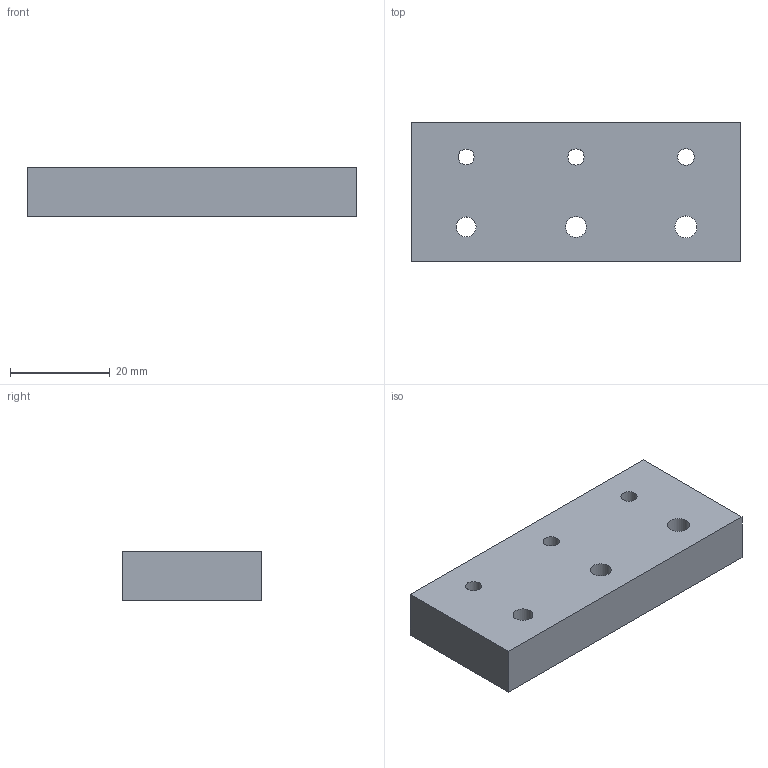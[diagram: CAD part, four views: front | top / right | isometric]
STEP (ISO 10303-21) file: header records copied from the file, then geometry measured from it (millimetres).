
FILE_DESCRIPTION(('Open CASCADE Model'),'2;1');
FILE_NAME('Open CASCADE Shape Model','2026-11-08T07:33:08',('Author'),( 'Open CASCADE'),'Open CASCADE STEP processor 7.8','Open CASCADE 7.8' ,'Unknown');
FILE_SCHEMA(('AUTOMOTIVE_DESIGN { 1 0 10303 214 1 1 1 1 }'));
Length unit declared in the file: millimetre
Products named in the file (1): Open CASCADE STEP translator 7.8 19
Bounding box: 66 x 28 x 10 mm (x, y, z)
Volume: 17815.2 mm3; surface area: 6144.9 mm2
Topology: 1 solids, 1 shells, 12 faces, 30 edges, 20 vertices
Faces by surface type: plane 6, cylinder 6
Full cylindrical faces by diameter (mm): 3.2 x1, 3.242 x1, 3.3 x1, 4 x1, 4.2 x1, 4.4 x1
Entity records: 790 total; most frequent: DIRECTION 128, CARTESIAN_POINT 123, LINE 66, VECTOR 66, ORIENTED_EDGE 60, PCURVE 60, DEFINITIONAL_REPRESENTATION 60, EDGE_CURVE 30
